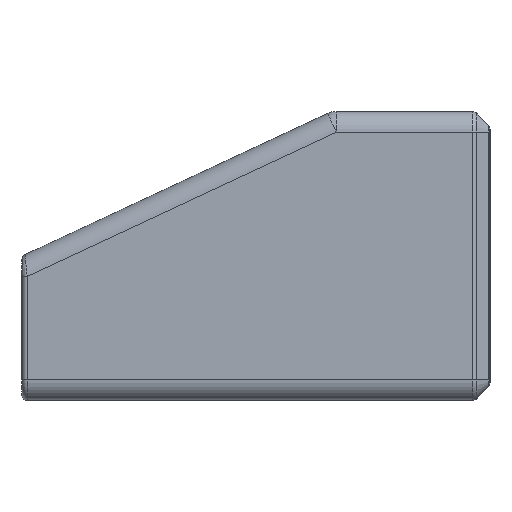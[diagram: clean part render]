
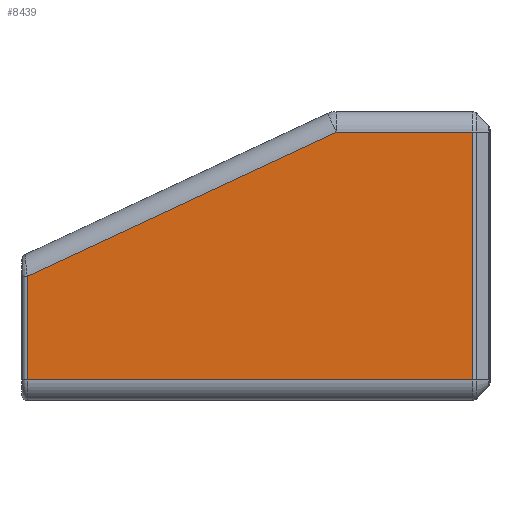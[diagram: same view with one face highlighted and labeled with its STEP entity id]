
A CAD part, left-side view. The second image highlights one B-rep face of the part: STEP entity #8439.
In plain terms, the highlighted planar face has unit normal (-1, 0, 0).
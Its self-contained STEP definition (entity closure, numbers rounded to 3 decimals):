
#513 = EDGE_CURVE ( 'NONE', #4471, #6473, #12113, .T. ) ;
#814 = CARTESIAN_POINT ( 'NONE',  ( -37.218, -43.618, 50.25 ) ) ;
#1290 = EDGE_CURVE ( 'NONE', #3459, #8301, #8097, .T. ) ;
#1856 = EDGE_CURVE ( 'NONE', #6473, #3459, #10410, .T. ) ;
#2632 = EDGE_CURVE ( 'NONE', #8543, #4471, #11332, .T. ) ;
#2860 = VECTOR ( 'NONE', #12126, 1000. ) ;
#3338 = CARTESIAN_POINT ( 'NONE',  ( -37.218, -0.5, 50.25 ) ) ;
#3427 = CARTESIAN_POINT ( 'NONE',  ( -37.218, -45.325, 50.25 ) ) ;
#3454 = VECTOR ( 'NONE', #9363, 1000. ) ;
#3459 = VERTEX_POINT ( 'NONE', #814 ) ;
#4471 = VERTEX_POINT ( 'NONE', #9612 ) ;
#4489 = FACE_OUTER_BOUND ( 'NONE', #10212, .T. ) ;
#5616 = DIRECTION ( 'NONE',  ( 0., -1., 0. ) ) ;
#5637 = ORIENTED_EDGE ( 'NONE', *, *, #1290, .T. ) ;
#6216 = CARTESIAN_POINT ( 'NONE',  ( -37.218, -0.846, 60.438 ) ) ;
#6309 = LINE ( 'NONE', #7466, #2860 ) ;
#6473 = VERTEX_POINT ( 'NONE', #10641 ) ;
#6524 = VECTOR ( 'NONE', #5616, 1000. ) ;
#7092 = EDGE_CURVE ( 'NONE', #8301, #8543, #6309, .T. ) ;
#7205 = AXIS2_PLACEMENT_3D ( 'NONE', #11834, #7944, #11586 ) ;
#7466 = CARTESIAN_POINT ( 'NONE',  ( -37.218, -45.325, 74.25 ) ) ;
#7944 = DIRECTION ( 'NONE',  ( -1., 0., 0. ) ) ;
#8097 = LINE ( 'NONE', #10956, #10998 ) ;
#8151 = VECTOR ( 'NONE', #8479, 1000. ) ;
#8301 = VERTEX_POINT ( 'NONE', #10193 ) ;
#8415 = PLANE ( 'NONE',  #7205 ) ;
#8439 = ADVANCED_FACE ( 'NONE', ( #4489 ), #8415, .T. ) ;
#8479 = DIRECTION ( 'NONE',  ( 0., 0., -1. ) ) ;
#8543 = VERTEX_POINT ( 'NONE', #9162 ) ;
#8725 = ORIENTED_EDGE ( 'NONE', *, *, #513, .T. ) ;
#9162 = CARTESIAN_POINT ( 'NONE',  ( -37.218, -30.444, 74.25 ) ) ;
#9326 = ORIENTED_EDGE ( 'NONE', *, *, #1856, .T. ) ;
#9363 = DIRECTION ( 'NONE',  ( 0., 0.906, -0.423 ) ) ;
#9612 = CARTESIAN_POINT ( 'NONE',  ( -37.218, -0.5, 60.276 ) ) ;
#9954 = ORIENTED_EDGE ( 'NONE', *, *, #7092, .T. ) ;
#9972 = ORIENTED_EDGE ( 'NONE', *, *, #2632, .T. ) ;
#10193 = CARTESIAN_POINT ( 'NONE',  ( -37.218, -43.618, 74.25 ) ) ;
#10212 = EDGE_LOOP ( 'NONE', ( #9972, #8725, #9326, #5637, #9954 ) ) ;
#10410 = LINE ( 'NONE', #3427, #6524 ) ;
#10641 = CARTESIAN_POINT ( 'NONE',  ( -37.218, -0.5, 50.25 ) ) ;
#10956 = CARTESIAN_POINT ( 'NONE',  ( -37.218, -43.618, 0. ) ) ;
#10998 = VECTOR ( 'NONE', #11089, 1000. ) ;
#11089 = DIRECTION ( 'NONE',  ( 0., 0., 1. ) ) ;
#11332 = LINE ( 'NONE', #6216, #3454 ) ;
#11586 = DIRECTION ( 'NONE',  ( 0., 0., 1. ) ) ;
#11834 = CARTESIAN_POINT ( 'NONE',  ( -37.218, -45.325, 0. ) ) ;
#12113 = LINE ( 'NONE', #3338, #8151 ) ;
#12126 = DIRECTION ( 'NONE',  ( 0., 1., 0. ) ) ;
